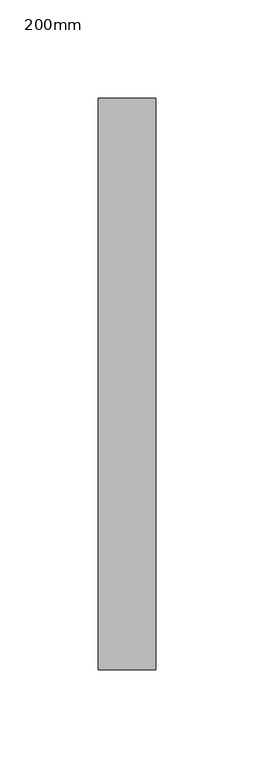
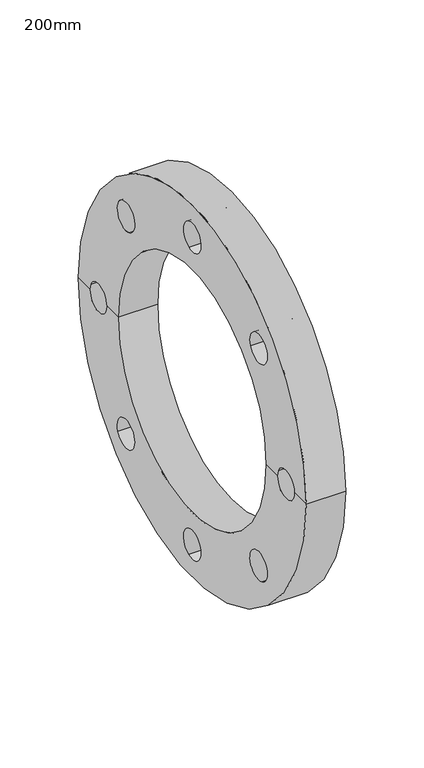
"""IFC4 building model written with IfcOpenShell, lengths in millimetres: pipe fitting geometry, Durapipe_PipeFitting_PVC_BackingFlange : 200mm."""

from ifc_helpers import new_model, si_unit, frame, origin, place, context, project, spatial, polyline, circle_curve, source, transform, mapped, element, save
from ifc_brep_helpers import plane_surface, cylinder_surface, revolved_surface, advanced_brep


def pipe_fitting_200mm_c7647781(model_context):
    return source(origin(), model_context, "Body", "AdvancedBrep", [
        advanced_brep(
        [(-14.5, 145.0, 0.0), (14.5, 145.0, 0.0), (14.5, -145.0, 0.0), (-14.5, -145.0, 0.0), (-14.5, -130.4999023, 0.0), (-14.5, -129.661103, -4.2576598), (-14.5, -108.5000812, 0.0), (-14.5, -94.5, 0.0), (-14.5, 94.5, 0.0), (-14.5, 108.5000812, 0.0), (-14.5, 109.3388806, -4.1689217), (-14.5, 130.4999023, 0.0), (-14.5, 94.6948653, -88.6736251), (-14.5, 74.3663911, -80.2621367), (-14.5, 4.2576598, -129.661103), (-14.5, -4.1689217, -109.3388806), (-14.5, -88.6736251, -94.6948653), (-14.5, -80.2621367, -74.3663911), (-14.5, 129.661103, 4.2576598), (-14.5, -109.3388806, 4.1689217), (-14.5, 88.6736251, 94.6948653), (-14.5, 80.2621367, 74.3663911), (-14.5, -4.2576598, 129.661103), (-14.5, 4.1689217, 109.3388806), (-14.5, -94.6948653, 88.6736251), (-14.5, -74.3663911, 80.2621367), (14.5, 94.5, 0.0), (14.5, -94.5, 0.0), (14.5, -108.5000812, 0.0), (14.5, -129.661103, -4.2576598), (14.5, -130.4999023, 0.0), (14.5, 130.4999023, 0.0), (14.5, 109.3388806, -4.1689217), (14.5, 108.5000812, 0.0), (14.5, 74.3663911, -80.2621367), (14.5, 94.6948653, -88.6736251), (14.5, -4.1689217, -109.3388806), (14.5, 4.2576598, -129.661103), (14.5, -80.2621367, -74.3663911), (14.5, -88.6736251, -94.6948653), (14.5, 129.661103, 4.2576598), (14.5, -109.3388806, 4.1689217), (14.5, 80.2621367, 74.3663911), (14.5, 88.6736251, 94.6948653), (14.5, 4.1689217, 109.3388806), (14.5, -4.2576598, 129.661103), (14.5, -74.3663911, 80.2621367), (14.5, -94.6948653, 88.6736251)],
        [
            (0, 1),
            (1, 2, circle_curve(frame((14.5, 0.0, 0.0), z_axis=(-1.0, 0.0, 0.0), x_axis=(0.0, 1.0, 0.0)), 145.0)),
            (2, 3),
            (3, 0, circle_curve(frame((-14.5, 0.0, 0.0), z_axis=(1.0, 0.0, 0.0), x_axis=(0.0, 1.0, 0.0)), 145.0)),
            (0, 3, circle_curve(frame((-14.5, 0.0, 0.0), z_axis=(1.0, 0.0, 0.0), x_axis=(0.0, 1.0, 0.0)), 145.0)),
            (2, 1, circle_curve(frame((14.5, 0.0, 0.0), z_axis=(-1.0, 0.0, 0.0), x_axis=(0.0, 1.0, 0.0)), 145.0)),
            (3, 4),
            (4, 5, circle_curve(frame((-14.5, -119.4999918, -0.044369), z_axis=(1.0, 0.0, 0.0), x_axis=(0.0, -0.9237373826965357, -0.38302643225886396)), 11.0)),
            (5, 6, circle_curve(frame((-14.5, -119.4999918, -0.044369), z_axis=(1.0, 0.0, 0.0), x_axis=(0.0, -0.9237373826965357, -0.38302643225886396)), 11.0)),
            (6, 7),
            (7, 8, circle_curve(frame((-14.5, 0.0, 0.0), z_axis=(1.0, 0.0, 0.0), x_axis=(0.0, 1.0, 0.0)), 94.5)),
            (8, 9),
            (9, 10, circle_curve(frame((-14.5, 119.4999918, 0.044369), z_axis=(1.0, 0.0, 0.0), x_axis=(0.0, 0.92373738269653, 0.38302643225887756)), 11.0)),
            (10, 11, circle_curve(frame((-14.5, 119.4999918, 0.044369), z_axis=(1.0, 0.0, 0.0), x_axis=(0.0, 0.92373738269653, 0.38302643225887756)), 11.0)),
            (11, 0),
            (12, 13, circle_curve(frame((-14.5, 84.5306282, -84.4678809), z_axis=(1.0, 0.0, 0.0), x_axis=(0.0, 0.9240215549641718, -0.3823403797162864)), 11.0)),
            (13, 12, circle_curve(frame((-14.5, 84.5306282, -84.4678809), z_axis=(1.0, 0.0, 0.0), x_axis=(0.0, 0.9240215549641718, -0.3823403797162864)), 11.0)),
            (14, 15, circle_curve(frame((-14.5, 0.044369, -119.4999918), z_axis=(1.0, 0.0, 0.0), x_axis=(0.0, 0.3830264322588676, -0.9237373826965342)), 11.0)),
            (15, 14, circle_curve(frame((-14.5, 0.044369, -119.4999918), z_axis=(1.0, 0.0, 0.0), x_axis=(0.0, 0.3830264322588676, -0.9237373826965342)), 11.0)),
            (16, 17, circle_curve(frame((-14.5, -84.4678809, -84.5306282), z_axis=(1.0, 0.0, 0.0), x_axis=(0.0, -0.3823403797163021, -0.9240215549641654)), 11.0)),
            (17, 16, circle_curve(frame((-14.5, -84.4678809, -84.5306282), z_axis=(1.0, 0.0, 0.0), x_axis=(0.0, -0.3823403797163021, -0.9240215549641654)), 11.0)),
            (11, 18, circle_curve(frame((-14.5, 119.4999918, 0.044369), z_axis=(1.0, 0.0, 0.0), x_axis=(0.0, 0.92373738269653, 0.38302643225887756)), 11.0)),
            (18, 9, circle_curve(frame((-14.5, 119.4999918, 0.044369), z_axis=(1.0, 0.0, 0.0), x_axis=(0.0, 0.92373738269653, 0.38302643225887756)), 11.0)),
            (8, 7, circle_curve(frame((-14.5, 0.0, 0.0), z_axis=(1.0, 0.0, 0.0), x_axis=(0.0, 1.0, 0.0)), 94.5)),
            (6, 19, circle_curve(frame((-14.5, -119.4999918, -0.044369), z_axis=(1.0, 0.0, 0.0), x_axis=(0.0, -0.9237373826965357, -0.38302643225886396)), 11.0)),
            (19, 4, circle_curve(frame((-14.5, -119.4999918, -0.044369), z_axis=(1.0, 0.0, 0.0), x_axis=(0.0, -0.9237373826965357, -0.38302643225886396)), 11.0)),
            (20, 21, circle_curve(frame((-14.5, 84.4678809, 84.5306282), z_axis=(1.0, 0.0, 0.0), x_axis=(0.0, 0.3823403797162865, 0.9240215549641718)), 11.0)),
            (21, 20, circle_curve(frame((-14.5, 84.4678809, 84.5306282), z_axis=(1.0, 0.0, 0.0), x_axis=(0.0, 0.3823403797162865, 0.9240215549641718)), 11.0)),
            (22, 23, circle_curve(frame((-14.5, -0.044369, 119.4999918), z_axis=(1.0, 0.0, 0.0), x_axis=(0.0, -0.38302643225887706, 0.9237373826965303)), 11.0)),
            (23, 22, circle_curve(frame((-14.5, -0.044369, 119.4999918), z_axis=(1.0, 0.0, 0.0), x_axis=(0.0, -0.38302643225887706, 0.9237373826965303)), 11.0)),
            (24, 25, circle_curve(frame((-14.5, -84.5306282, 84.4678809), z_axis=(1.0, 0.0, 0.0), x_axis=(0.0, -0.9240215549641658, 0.38234037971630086)), 11.0)),
            (25, 24, circle_curve(frame((-14.5, -84.5306282, 84.4678809), z_axis=(1.0, 0.0, 0.0), x_axis=(0.0, -0.9240215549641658, 0.38234037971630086)), 11.0)),
            (26, 8),
            (7, 27),
            (27, 26, circle_curve(frame((14.5, 0.0, 0.0), z_axis=(1.0, 0.0, 0.0), x_axis=(0.0, 1.0, 0.0)), 94.5)),
            (26, 27, circle_curve(frame((14.5, 0.0, 0.0), z_axis=(1.0, 0.0, 0.0), x_axis=(0.0, 1.0, 0.0)), 94.5)),
            (27, 28),
            (28, 29, circle_curve(frame((14.5, -119.4999918, -0.044369), z_axis=(-1.0, 0.0, 0.0), x_axis=(0.0, -0.9237373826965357, -0.38302643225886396)), 11.0)),
            (29, 30, circle_curve(frame((14.5, -119.4999918, -0.044369), z_axis=(-1.0, 0.0, 0.0), x_axis=(0.0, -0.9237373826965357, -0.38302643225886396)), 11.0)),
            (30, 2),
            (1, 31),
            (31, 32, circle_curve(frame((14.5, 119.4999918, 0.044369), z_axis=(-1.0, 0.0, 0.0), x_axis=(0.0, 0.92373738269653, 0.38302643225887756)), 11.0)),
            (32, 33, circle_curve(frame((14.5, 119.4999918, 0.044369), z_axis=(-1.0, 0.0, 0.0), x_axis=(0.0, 0.92373738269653, 0.38302643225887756)), 11.0)),
            (33, 26),
            (34, 35, circle_curve(frame((14.5, 84.5306282, -84.4678809), z_axis=(-1.0, 0.0, 0.0), x_axis=(0.0, 0.9240215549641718, -0.3823403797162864)), 11.0)),
            (35, 34, circle_curve(frame((14.5, 84.5306282, -84.4678809), z_axis=(-1.0, 0.0, 0.0), x_axis=(0.0, 0.9240215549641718, -0.3823403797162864)), 11.0)),
            (36, 37, circle_curve(frame((14.5, 0.044369, -119.4999918), z_axis=(-1.0, 0.0, 0.0), x_axis=(0.0, 0.3830264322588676, -0.9237373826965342)), 11.0)),
            (37, 36, circle_curve(frame((14.5, 0.044369, -119.4999918), z_axis=(-1.0, 0.0, 0.0), x_axis=(0.0, 0.3830264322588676, -0.9237373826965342)), 11.0)),
            (38, 39, circle_curve(frame((14.5, -84.4678809, -84.5306282), z_axis=(-1.0, 0.0, 0.0), x_axis=(0.0, -0.3823403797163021, -0.9240215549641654)), 11.0)),
            (39, 38, circle_curve(frame((14.5, -84.4678809, -84.5306282), z_axis=(-1.0, 0.0, 0.0), x_axis=(0.0, -0.3823403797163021, -0.9240215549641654)), 11.0)),
            (33, 40, circle_curve(frame((14.5, 119.4999918, 0.044369), z_axis=(-1.0, 0.0, 0.0), x_axis=(0.0, 0.92373738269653, 0.38302643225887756)), 11.0)),
            (40, 31, circle_curve(frame((14.5, 119.4999918, 0.044369), z_axis=(-1.0, 0.0, 0.0), x_axis=(0.0, 0.92373738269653, 0.38302643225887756)), 11.0)),
            (30, 41, circle_curve(frame((14.5, -119.4999918, -0.044369), z_axis=(-1.0, 0.0, 0.0), x_axis=(0.0, -0.9237373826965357, -0.38302643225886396)), 11.0)),
            (41, 28, circle_curve(frame((14.5, -119.4999918, -0.044369), z_axis=(-1.0, 0.0, 0.0), x_axis=(0.0, -0.9237373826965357, -0.38302643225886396)), 11.0)),
            (42, 43, circle_curve(frame((14.5, 84.4678809, 84.5306282), z_axis=(-1.0, 0.0, 0.0), x_axis=(0.0, 0.3823403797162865, 0.9240215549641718)), 11.0)),
            (43, 42, circle_curve(frame((14.5, 84.4678809, 84.5306282), z_axis=(-1.0, 0.0, 0.0), x_axis=(0.0, 0.3823403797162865, 0.9240215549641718)), 11.0)),
            (44, 45, circle_curve(frame((14.5, -0.044369, 119.4999918), z_axis=(-1.0, 0.0, 0.0), x_axis=(0.0, -0.38302643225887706, 0.9237373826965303)), 11.0)),
            (45, 44, circle_curve(frame((14.5, -0.044369, 119.4999918), z_axis=(-1.0, 0.0, 0.0), x_axis=(0.0, -0.38302643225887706, 0.9237373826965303)), 11.0)),
            (46, 47, circle_curve(frame((14.5, -84.5306282, 84.4678809), z_axis=(-1.0, 0.0, 0.0), x_axis=(0.0, -0.9240215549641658, 0.38234037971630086)), 11.0)),
            (47, 46, circle_curve(frame((14.5, -84.5306282, 84.4678809), z_axis=(-1.0, 0.0, 0.0), x_axis=(0.0, -0.9240215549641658, 0.38234037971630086)), 11.0)),
            (36, 15),
            (14, 37),
            (34, 13),
            (12, 35),
            (32, 10),
            (18, 40),
            (42, 21),
            (20, 43),
            (44, 23),
            (22, 45),
            (46, 25),
            (24, 47),
            (41, 19),
            (5, 29),
            (38, 17),
            (16, 39),
        ],
        [
            cylinder_surface(frame((-33.2738734, 0.0, 0.0), z_axis=(-1.0, 0.0, 0.0), x_axis=(0.0, 1.0, 0.0)), 145.0),
            plane_surface(frame((-14.5, 0.0, 0.0), z_axis=(-1.0, 0.0, 0.0), x_axis=(0.0, 1.0, 0.0))),
            revolved_surface(polyline([(-14.5, 94.5, 0.0), (14.5, 94.5, 0.0)]), (-33.2738734, 0.0, 0.0), (-1.0, 0.0, 0.0)),
            plane_surface(frame((14.5, 0.0, 0.0), z_axis=(1.0, 0.0, 0.0), x_axis=(0.0, 1.0, 0.0))),
            revolved_surface(polyline([(-14.500000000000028, 4.257659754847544, -129.66110300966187), (14.499999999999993, 4.257659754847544, -129.66110300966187)]), (35.5, 0.044369, -119.4999918), (-1.0000000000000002, 0.0, 0.0)),
            revolved_surface(polyline([(-14.5, 94.69486530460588, -88.67362507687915), (14.5, 94.69486530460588, -88.67362507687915)]), (35.5, 84.5306282, -84.4678809), (-1.0, 0.0, 0.0)),
            revolved_surface(polyline([(-14.5, 129.66110300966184, 4.257659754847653), (14.5, 129.66110300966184, 4.257659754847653)]), (35.5, 119.4999918, 0.044369), (-1.0, 0.0, 0.0)),
            revolved_surface(polyline([(-14.500000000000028, 88.67362507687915, 94.69486530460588), (14.499999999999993, 88.67362507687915, 94.69486530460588)]), (35.5, 84.4678809, 84.5306282), (-1.0000000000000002, 0.0, 0.0)),
            revolved_surface(polyline([(-14.500000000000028, -4.257659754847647, 129.66110300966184), (14.499999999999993, -4.257659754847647, 129.66110300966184)]), (35.5, -0.044369, 119.4999918), (-1.0000000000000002, 0.0, 0.0)),
            revolved_surface(polyline([(-14.5, -94.69486530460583, 88.6736250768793), (14.5, -94.69486530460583, 88.6736250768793)]), (35.5, -84.5306282, 84.4678809), (-1.0, 0.0, 0.0)),
            revolved_surface(polyline([(-14.500000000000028, -129.6611030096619, -4.257659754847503), (14.499999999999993, -129.6611030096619, -4.257659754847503)]), (35.5, -119.4999918, -0.044369), (-1.0000000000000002, 0.0, 0.0)),
            revolved_surface(polyline([(-14.500000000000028, -88.67362507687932, -94.69486530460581), (14.499999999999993, -88.67362507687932, -94.69486530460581)]), (35.5, -84.4678809, -84.5306282), (-1.0000000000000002, 0.0, 0.0)),
        ],
        [
            (0, [[1, 2, 3, 4]]),
            (0, [[-1, 5, -3, 6]]),
            (1, [[-4, 7, 8, 9, 10, 11, 12, 13, 14, 15], [16, 17], [18, 19], [20, 21]]),
            (1, [[-5, -15, 22, 23, -12, 24, -10, 25, 26, -7], [27, 28], [29, 30], [31, 32]]),
            (2, [[33, -11, 34, 35]]),
            (2, [[-33, 36, -34, -24]]),
            (3, [[-35, 37, 38, 39, 40, -2, 41, 42, 43, 44], [45, 46], [47, 48], [49, 50]]),
            (3, [[-36, -44, 51, 52, -41, -6, -40, 53, 54, -37], [55, 56], [57, 58], [59, 60]]),
            (4, [[61, -18, 62, -47]]),
            (4, [[-61, -48, -62, -19]]),
            (5, [[63, -16, 64, -45]]),
            (5, [[-63, -46, -64, -17]]),
            (6, [[65, -13, -23, 66, -51, -43]]),
            (6, [[-65, -42, -52, -66, -22, -14]]),
            (7, [[67, -27, 68, -55]]),
            (7, [[-67, -56, -68, -28]]),
            (8, [[69, -29, 70, -57]]),
            (8, [[-69, -58, -70, -30]]),
            (9, [[71, -31, 72, -59]]),
            (9, [[-71, -60, -72, -32]]),
            (10, [[73, -25, -9, 74, -38, -54]]),
            (10, [[-73, -53, -39, -74, -8, -26]]),
            (11, [[75, -20, 76, -49]]),
            (11, [[-75, -50, -76, -21]]),
        ],
    ),
    ])


if __name__ == "__main__":
    model = new_model("IFC4")
    model_context = context("Model", 3, world=origin())
    ifc_project = project(units=[si_unit("LENGTHUNIT", "METRE", prefix="MILLI")], contexts=[model_context])
    site = spatial("IfcSite", under=ifc_project)
    building = spatial("IfcBuilding", under=site)
    placement = place(None, origin())
    pipe_fitting_200mm_shape = pipe_fitting_200mm_c7647781(model_context)
    element("IfcPipeFitting", 1, ObjectType="Durapipe_PipeFitting_PVC_BackingFlange : 200mm", at=placement, inside=building, context=model_context, shape_type="MappedRepresentation", body=[
        mapped(pipe_fitting_200mm_shape, transform((0.0, 0.0, 0.0), x_axis=(1.0, 0.0, 0.0), y_axis=(0.0, 1.0, 0.0), z_axis=(0.0, 0.0, 1.0))),
    ])
    save(model, "model.ifc")
